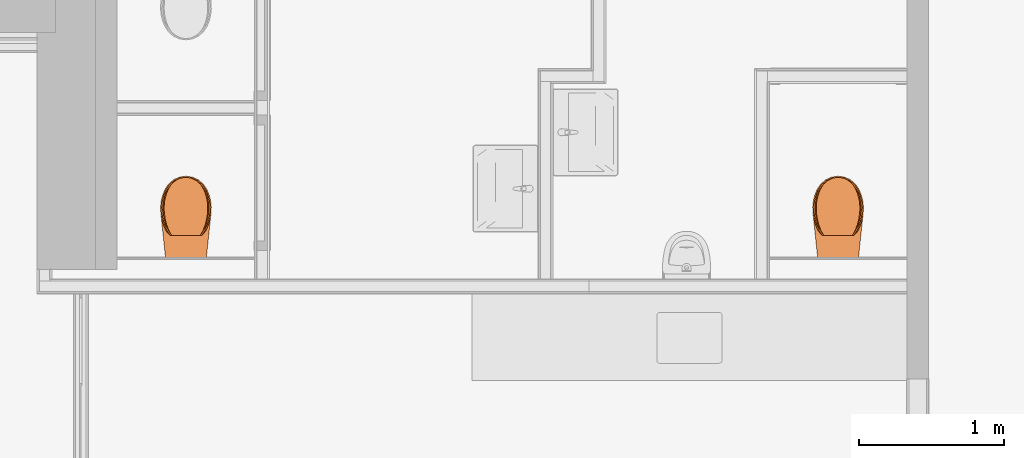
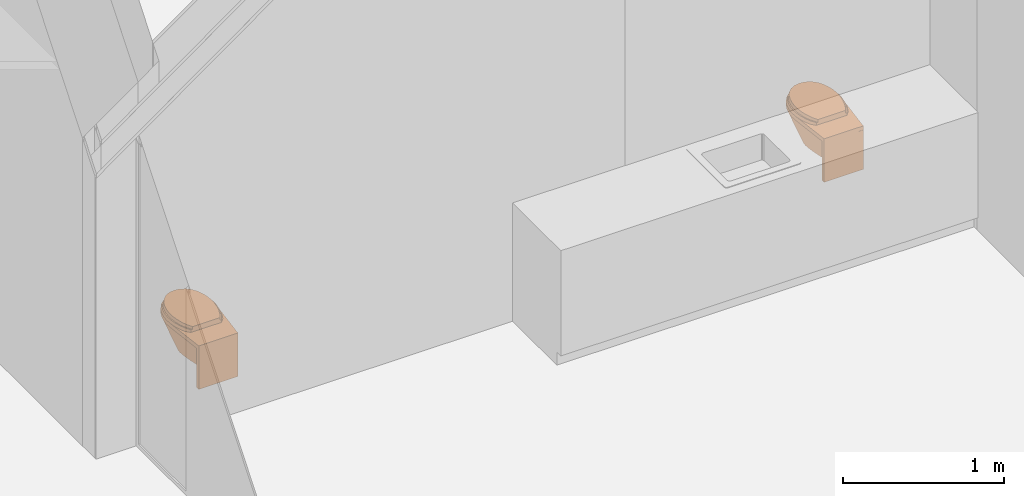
# One storey, part 128 of 135: 2 proxies.
"""IFC2X3 building model written with IfcOpenShell, lengths in millimetres."""

import ifcopenshell
import ifcopenshell.guid

model = None  # the IFC model being written
_history = None  # IfcOwnerHistory: only IFC2X3 demands one
_inside = {}  # id of a spatial element -> (the spatial element, [elements in it])
_under = {}  # id of a project, library or spatial element -> (it, [spatial elements below it])
_declared = {}  # id of a project -> (the project, [libraries it declares])
_typed = {}  # id of a type object -> (the type object, [elements of that type])
_made_of = {}  # id of a material, layer set ... -> (it, [elements and type objects made of it])


def new_model(schema):
    """Start an empty IFC model of exactly this schema.

    Asked for "IFC4X3", IfcOpenShell would pick the latest addendum, in which some entities
    have other attributes; the version numbers below select the first issue.
    IFC2X3 requires an IfcOwnerHistory on every rooted entity: one is made here for all.
    """
    global model, _history
    if schema == "IFC4X3":
        model = ifcopenshell.file(schema_version=(4, 3, 0, 0))
    else:
        model = ifcopenshell.file(schema=schema)
    _inside.clear()
    _under.clear()
    _declared.clear()
    _typed.clear()
    _made_of.clear()
    _history = None
    if model.schema == "IFC2X3":
        org = make("IfcOrganization", Name="unknown")
        user = make(
            "IfcPersonAndOrganization",
            ThePerson=make("IfcPerson", FamilyName="unknown"),
            TheOrganization=org,
        )
        app = make(
            "IfcApplication",
            ApplicationDeveloper=org,
            Version="unknown",
            ApplicationFullName="unknown",
            ApplicationIdentifier="unknown",
        )
        _history = make(
            "IfcOwnerHistory",
            OwningUser=user,
            OwningApplication=app,
            ChangeAction="ADDED",
            CreationDate=0,
        )
    return model


def make(cls, **values):
    """One entity of the class cls with the attributes given. An attribute that is None is left unset."""
    return model.create_entity(
        cls, **{name: value for name, value in values.items() if value is not None}
    )


def entity(cls, *values):
    """Any entity or typed value of the class cls, its attributes in the order of the schema. None: left unset."""
    e = model.create_entity(cls)
    for i, value in enumerate(values):
        if value is not None:
            e[i] = value
    return e


def rooted(cls, **values):
    """An entity with a GlobalId (a new one), such as an element, a storey or a relation."""
    return make(cls, GlobalId=ifcopenshell.guid.new(), OwnerHistory=_history, **values)


def si_unit(unit_type, name, prefix=None):
    """IfcSIUnit, for example si_unit("LENGTHUNIT", "METRE", prefix="MILLI")."""
    return make("IfcSIUnit", UnitType=unit_type, Prefix=prefix, Name=name)


def converted_unit(unit_type, name, factor, base, dimensions=None, offset=None):
    """IfcConversionBasedUnit, such as the inch: factor (a typed value) times the base unit."""
    return make(
        "IfcConversionBasedUnit"
        if offset is None
        else "IfcConversionBasedUnitWithOffset",
        ConversionOffset=offset,
        Dimensions=None
        if dimensions is None
        else entity("IfcDimensionalExponents", *dimensions),
        UnitType=unit_type,
        Name=name,
        ConversionFactor=make(
            "IfcMeasureWithUnit", ValueComponent=factor, UnitComponent=base
        ),
    )


def derived_unit(unit_type, elements):
    """IfcDerivedUnit: a product of units, each with its exponent."""
    return make(
        "IfcDerivedUnit",
        Elements=[
            make("IfcDerivedUnitElement", Unit=unit, Exponent=power)
            for unit, power in elements
        ],
        UnitType=unit_type,
    )


def money_unit(currency):
    """IfcMonetaryUnit."""
    return make("IfcMonetaryUnit", Currency=currency)


def assignment(units):
    """IfcUnitAssignment: the units of a project."""
    return None if units is None else make("IfcUnitAssignment", Units=units)


def point(xyz):
    """IfcCartesianPoint."""
    return None if xyz is None else make("IfcCartesianPoint", Coordinates=xyz)


def direction(xyz):
    """IfcDirection."""
    return None if xyz is None else make("IfcDirection", DirectionRatios=xyz)


def frame(location, z_axis=None, x_axis=None):
    """IfcAxis2Placement3D, a coordinate frame: its origin and axes. An axis left out is left unset."""
    return make(
        "IfcAxis2Placement3D",
        Location=point(location),
        Axis=direction(z_axis),
        RefDirection=direction(x_axis),
    )


def origin_with_axes():
    """The frame at (0, 0, 0) with the z axis (0, 0, 1) and the x axis (1, 0, 0) written out."""
    return frame((0.0, 0.0, 0.0), z_axis=(0.0, 0.0, 1.0), x_axis=(1.0, 0.0, 0.0))


def place(relative_to, where):
    """IfcLocalPlacement: puts the frame where relative to a parent placement (None: the world)."""
    return make(
        "IfcLocalPlacement", PlacementRelTo=relative_to, RelativePlacement=where
    )


def context(
    kind, dimensions, precision=None, world=None, true_north=None, identifier=None
):
    """IfcGeometricRepresentationContext, for example the 3D "Model" context."""
    return make(
        "IfcGeometricRepresentationContext",
        ContextIdentifier=identifier,
        ContextType=kind,
        CoordinateSpaceDimension=dimensions,
        Precision=precision,
        WorldCoordinateSystem=world,
        TrueNorth=true_north,
    )


def subcontext(parent, identifier, kind, view, scale=None):
    """IfcGeometricRepresentationSubContext, for example "Body" below "Model"."""
    return make(
        "IfcGeometricRepresentationSubContext",
        ContextIdentifier=identifier,
        ContextType=kind,
        ParentContext=parent,
        TargetScale=scale,
        TargetView=view,
    )


def project(units=None, contexts=None):
    """IfcProject with its units and contexts."""
    return rooted(
        "IfcProject",
        Name="project",
        RepresentationContexts=contexts,
        UnitsInContext=assignment(units),
    )


def spatial(cls, under=None, at=None, **own):
    """A site, building, storey or space (cls), placed at a placement, below another one or the project."""
    s = rooted(cls, ObjectPlacement=at, **own)
    if under is not None:
        _under.setdefault(under.id(), (under, []))[1].append(s)
    return s


def faces_of(points, faces, orient=None, outer=None):
    """IfcFace entities. A face is a list of loops; a loop is a list of indices into points, from 0.

    orient and outer hold one flag for each loop. By default every Orientation is true, the
    first loop of a face is its IfcFaceOuterBound and the others are IfcFaceBound.
    """
    made = []
    for i, loops in enumerate(faces):
        bounds = []
        for j, loop in enumerate(loops):
            is_outer = j == 0 if outer is None else outer[i][j]
            bounds.append(
                make(
                    "IfcFaceOuterBound" if is_outer else "IfcFaceBound",
                    Bound=make("IfcPolyLoop", Polygon=[points[k] for k in loop]),
                    Orientation=True if orient is None else orient[i][j],
                )
            )
        made.append(make("IfcFace", Bounds=bounds))
    return made


def open_shell(faces, orient=None, outer=None):
    """The faces of one IfcOpenShell. surface_model builds it on its shared points."""
    return ("IfcOpenShell", faces, orient, outer)


def faceted_brep(points, faces, orient=None, outer=None, voids=None):
    """IfcFacetedBrep: a solid bounded by flat faces; with voids (closed shells), ...WithVoids."""
    shared = [point(p) for p in points]
    hull = make("IfcClosedShell", CfsFaces=faces_of(shared, faces, orient, outer))
    if voids is None:
        return make("IfcFacetedBrep", Outer=hull)
    return make(
        "IfcFacetedBrepWithVoids",
        Outer=hull,
        Voids=[
            make(cls, CfsFaces=faces_of(shared, fs, o, b)) for cls, fs, o, b in voids
        ],
    )


def surface_model(cls, points, shells):
    """IfcFaceBasedSurfaceModel or IfcShellBasedSurfaceModel (cls): surfaces that need not close."""
    shared = [point(p) for p in points]
    made = [make(c, CfsFaces=faces_of(shared, fs, o, b)) for c, fs, o, b in shells]
    if cls == "IfcFaceBasedSurfaceModel":
        return make(cls, FbsmFaces=made)
    return make(cls, SbsmBoundary=made)


def shape(context_of_items, identifier, shape_type, items):
    """IfcShapeRepresentation: the items that make up one representation, for example the "Body"."""
    return make(
        "IfcShapeRepresentation",
        ContextOfItems=context_of_items,
        RepresentationIdentifier=identifier,
        RepresentationType=shape_type,
        Items=items,
    )


def source(mapping_origin, context_of_items, identifier, shape_type, items):
    """IfcRepresentationMap: a shape defined once, which mapped items show again and again."""
    return make(
        "IfcRepresentationMap",
        MappingOrigin=mapping_origin,
        MappedRepresentation=shape(context_of_items, identifier, shape_type, items),
    )


def transform(
    local_origin,
    x_axis=None,
    y_axis=None,
    z_axis=None,
    scale=None,
    scale2=None,
    scale3=None,
    uniform=True,
):
    """IfcCartesianTransformationOperator3D, or its non-uniform kind. x_axis, y_axis, z_axis: its Axis1, 2, 3."""
    if uniform:
        return make(
            "IfcCartesianTransformationOperator3D",
            Axis1=direction(x_axis),
            Axis2=direction(y_axis),
            LocalOrigin=point(local_origin),
            Scale=scale,
            Axis3=direction(z_axis),
        )
    return make(
        "IfcCartesianTransformationOperator3DnonUniform",
        Axis1=direction(x_axis),
        Axis2=direction(y_axis),
        LocalOrigin=point(local_origin),
        Scale=scale,
        Axis3=direction(z_axis),
        Scale2=scale2,
        Scale3=scale3,
    )


def mapped(mapping_source, mapping_target):
    """IfcMappedItem: shows the shape of a source again, moved by a transform."""
    return make(
        "IfcMappedItem", MappingSource=mapping_source, MappingTarget=mapping_target
    )


def made_of(thing, what):
    """Note that an element or type object is made of a material, layer set ...; save() writes the relation."""
    if what is not None:
        _made_of.setdefault(what.id(), (what, []))[1].append(thing)
    return thing


def type_object(cls, material=None, **own):
    """A type object (cls), such as IfcWallType, which elements share."""
    return made_of(rooted(cls, **own), material)


def type_shapes(of_type, sources):
    """Give a type object the sources (RepresentationMaps) that its elements show as mapped items."""
    of_type.RepresentationMaps = sources


def element(
    cls,
    number,
    at=None,
    inside=None,
    cuts=None,
    type_object=None,
    material=None,
    context=None,
    identifier="Body",
    shape_type=None,
    held_by="IfcProductDefinitionShape",
    body=None,
    shapes=None,
    **own,
):
    """One element of the class cls, such as IfcWall. Its Tag is "e" and its number.

    at: its placement. inside: the storey or other place that contains it. cuts: it is an
    opening in that element (IfcRelVoidsElement). A single representation is given by context,
    identifier, shape_type and body (its items); several are given by shapes. held_by: the class
    of the entity that holds the representations. save() writes the other relations.
    """
    e = rooted(cls, Tag="e%d" % number, ObjectPlacement=at, **own)
    if body is not None:
        shapes = [shape(context, identifier, shape_type, body)]
    if shapes is not None:
        e.Representation = make(held_by, Representations=shapes)
    if inside is not None:
        _inside.setdefault(inside.id(), (inside, []))[1].append(e)
    if cuts is not None:
        rooted(
            "IfcRelVoidsElement", RelatingBuildingElement=cuts, RelatedOpeningElement=e
        )
    if type_object is not None:
        _typed.setdefault(type_object.id(), (type_object, []))[1].append(e)
    return made_of(e, material)


def aggregate(whole, parts):
    """IfcRelAggregates: a whole, such as a stair, and the parts it consists of."""
    return rooted("IfcRelAggregates", RelatingObject=whole, RelatedObjects=parts)


def save(model, path):
    """Write the relations noted so far, then the file.

    IfcRelAggregates (storeys below a building ...), IfcRelContainedInSpatialStructure (elements
    in a storey), IfcRelDefinesByType, IfcRelAssociatesMaterial and IfcRelDeclares: one each for
    every whole, place, type object, material and project.
    """
    for whole, parts in _under.values():
        aggregate(whole, parts)
    for where, things in _inside.values():
        rooted(
            "IfcRelContainedInSpatialStructure",
            RelatedElements=things,
            RelatingStructure=where,
        )
    for kind, things in _typed.values():
        rooted("IfcRelDefinesByType", RelatedObjects=things, RelatingType=kind)
    for what, things in _made_of.values():
        rooted("IfcRelAssociatesMaterial", RelatedObjects=things, RelatingMaterial=what)
    for by, libraries in _declared.values():
        rooted("IfcRelDeclares", RelatingContext=by, RelatedDefinitions=libraries)
    model.write(path)


model = new_model("IFC2X3")

# Units and contexts
model_context = context("Model", 3, precision=0.01, world=origin_with_axes(), true_north=direction((0.0, 1.0)))
body_context = subcontext(model_context, "Body", "Model", "MODEL_VIEW")
ifc_project = project(units=[si_unit("LENGTHUNIT", "METRE", prefix="MILLI"), si_unit("AREAUNIT", "SQUARE_METRE"), si_unit("VOLUMEUNIT", "CUBIC_METRE"), converted_unit("PLANEANGLEUNIT", "DEGREE", entity("IfcPlaneAngleMeasure", 0.0174532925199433), si_unit("PLANEANGLEUNIT", "RADIAN"), dimensions=[0, 0, 0, 0, 0, 0, 0]), money_unit("EUR"), converted_unit("TIMEUNIT", "Year", entity("IfcTimeMeasure", 31557600.0), si_unit("TIMEUNIT", "SECOND"), dimensions=[0, 0, 1, 0, 0, 0, 0]), si_unit("MASSUNIT", "GRAM", prefix="KILO"), si_unit("THERMODYNAMICTEMPERATUREUNIT", "DEGREE_CELSIUS"), si_unit("LUMINOUSINTENSITYUNIT", "LUMEN"), si_unit("ENERGYUNIT", "JOULE", prefix="MEGA"), derived_unit("THERMALCONDUCTANCEUNIT", [(si_unit("POWERUNIT", "WATT"), 1), (si_unit("LENGTHUNIT", "METRE"), -1), (si_unit("THERMODYNAMICTEMPERATUREUNIT", "KELVIN"), -1)]), derived_unit("SPECIFICHEATCAPACITYUNIT", [(si_unit("ENERGYUNIT", "JOULE"), 1), (si_unit("MASSUNIT", "GRAM", prefix="KILO"), -1), (si_unit("THERMODYNAMICTEMPERATUREUNIT", "KELVIN"), -1)]), derived_unit("MASSDENSITYUNIT", [(si_unit("MASSUNIT", "GRAM", prefix="KILO"), 1), (si_unit("VOLUMEUNIT", "CUBIC_METRE"), -1)])], contexts=[model_context])

# Site, building, storey
site_placement = place(None, origin_with_axes())
site = spatial("IfcSite", under=ifc_project, at=site_placement, Name="Site", CompositionType="ELEMENT")
building_placement = place(site_placement, origin_with_axes())
building = spatial("IfcBuilding", under=site, at=building_placement, Name="Naam gebouw", CompositionType="ELEMENT")
storey_placement = place(building_placement, origin_with_axes())
storey = spatial("IfcBuildingStorey", under=building, at=storey_placement, Name="Begane grond N", CompositionType="ELEMENT", Elevation=0.0)

# Proxies
building_element_proxy_type = type_object("IfcBuildingElementProxyType", Name="Toilet 27", PredefinedType="NOTDEFINED")
shared_shape = source(origin_with_axes(), body_context, "Body", "SurfaceModel", [
    faceted_brep([(-141.0283315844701, -29.31865370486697, 69.99999999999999), (-141.0283315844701, 0.4949050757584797, 69.99999999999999), (141.0283315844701, 0.4949050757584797, 69.99999999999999), (141.0283315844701, -29.31865370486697, 69.99999999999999), (-141.0283315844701, -29.31865370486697, 370.0), (-141.0283315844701, 0.4949050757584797, 370.0), (141.0283315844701, 0.4949050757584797, 370.0), (141.0283315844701, -29.31865370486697, 370.0)], [[[0, 1, 2, 3]], [[0, 4, 5, 1]], [[1, 5, 6, 2]], [[2, 6, 7, 3]], [[3, 7, 4, 0]], [[7, 6, 5, 4]]]),
    faceted_brep([(0.0, -70.89167385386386, 370.0), (29.22322490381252, -74.34010881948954, 370.0), (48.96817068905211, -81.5929972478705, 370.0), (48.96817068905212, -29.31865370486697, 370.0), (-48.96817068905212, -29.31865370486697, 370.0), (-48.96817068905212, -81.5929972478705, 370.0), (-29.22322490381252, -74.34010881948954, 370.0), (0.0, -102.6888280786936, 120.0), (13.70129415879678, -104.9506834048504, 120.0), (48.96817068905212, -88.2509938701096, 324.1614695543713), (48.96817068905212, -91.42153264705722, 305.9289314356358), (48.96817068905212, -107.0876370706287, 223.4625696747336), (48.96817068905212, -115.6023982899, 192.7960154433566), (48.96817068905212, -121.830119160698, 170.4964192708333), (48.96817068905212, -132.9294031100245, 150.8349994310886), (48.96817068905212, -136.958898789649, 141.3134093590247), (48.96817068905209, -162.865413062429, 120.0), (48.96817068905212, -29.31865370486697, 120.0), (-48.96817068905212, -29.31865370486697, 120.0), (-48.96817068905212, -132.9294031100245, 150.8349994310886), (-48.96817068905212, -128.1614437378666, 166.4745945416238), (-48.96817068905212, -115.6023982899, 192.7960154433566), (-48.96817068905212, -98.32654517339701, 277.0091093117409), (-48.96817068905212, -91.42153264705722, 305.9289314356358), (-48.96817068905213, -162.8654130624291, 120.0), (-25.9903462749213, -111.5027098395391, 120.0), (-13.70129415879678, -104.9506834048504, 120.0), (25.9903462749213, -111.5027098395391, 120.0), (35.59888072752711, -121.6691333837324, 120.0), (41.53676110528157, -134.4015105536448, 120.0), (-35.59888072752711, -121.6691333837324, 120.0), (-41.53676110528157, -134.4015105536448, 120.0)], [[[0, 1, 2, 3, 4, 5, 6]], [[0, 7, 1]], [[1, 8, 9, 2]], [[9, 10, 11, 12, 13, 14, 15, 16, 17, 3, 2]], [[4, 3, 17, 18]], [[19, 20, 21, 22, 23, 5, 4, 18, 24]], [[23, 25, 6, 5]], [[6, 26, 0]], [[7, 0, 26]], [[8, 1, 7]], [[27, 10, 9, 8]], [[10, 27, 11]], [[28, 12, 11, 27]], [[12, 28, 13]], [[29, 14, 13, 28]], [[14, 29, 15]], [[16, 15, 29]], [[29, 28, 27, 8, 7, 26, 25, 30, 31, 24, 18, 17, 16]], [[19, 31, 20]], [[20, 31, 30, 21]], [[21, 30, 22]], [[22, 30, 25, 23]], [[24, 31, 19]], [[26, 6, 25]]]),
    surface_model("IfcShellBasedSurfaceModel", [(-17.69122070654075, -459.020482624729, 120.0), (-85.18209164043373, -535.3680377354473, 370.0), (-34.02798181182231, -451.6883347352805, 120.0), (-44.28681357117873, -553.722258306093, 370.0), (-119.554809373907, -506.3435444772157, 370.0), (-47.75865687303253, -440.0938417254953, 120.0), (-57.83238894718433, -425.1254476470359, 120.0), (-68.23029031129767, -399.4182096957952, 120.0), (-74.94382651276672, -372.4786779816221, 120.0), (-77.83882476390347, -344.845484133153, 120.0), (-76.85750262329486, -317.0761416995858, 120.0), (-70.97348723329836, -270.8651255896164, 120.0), (-63.11507520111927, -224.9582077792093, 120.0), (-53.29597761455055, -179.4418475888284, 120.0), (-41.53676110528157, -134.4015105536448, 120.0), (-35.59888072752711, -121.6691333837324, 120.0), (-25.9903462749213, -111.5027098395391, 120.0), (-13.70129415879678, -104.9506834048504, 120.0), (0.0, -102.6888280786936, 120.0), (13.70129415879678, -104.9506834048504, 120.0), (25.9903462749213, -111.5027098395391, 120.0), (35.59888072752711, -121.6691333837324, 120.0), (41.53676110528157, -134.4015105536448, 120.0), (53.29597761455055, -179.4418475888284, 120.0), (63.11507520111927, -224.9582077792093, 120.0), (70.97348723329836, -270.8651255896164, 120.0), (76.85750262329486, -317.0761416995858, 120.0), (77.83882476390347, -344.8464779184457, 120.0), (74.94382651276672, -372.4786779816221, 120.0), (68.23029031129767, -399.4182096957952, 120.0), (57.83238894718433, -425.1254476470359, 120.0), (47.75865687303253, -440.0938417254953, 120.0), (34.02798181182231, -451.6883347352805, 120.0), (17.69122070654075, -459.020482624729, 120.0), (0.0, -461.5278029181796, 120.0), (-144.7734172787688, -468.8718762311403, 370.0), (-160.3903462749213, -430.2603362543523, 370.0), (-170.4738719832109, -389.7973742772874, 370.0), (-174.8222455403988, -348.2949128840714, 370.0), (-173.3473242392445, -306.5847503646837, 370.0), (-164.8111927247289, -257.2969749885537, 370.0), (-149.8396642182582, -209.614162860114, 370.0), (-128.7050017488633, -164.3989196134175, 370.0), (-101.7881776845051, -122.4661491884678, 370.0), (-81.51241692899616, -100.8344247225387, 370.0), (-56.88632388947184, -84.50156343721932, 370.0), (-29.22322490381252, -74.34010881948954, 370.0), (0.0, -70.89167385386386, 370.0), (29.22322490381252, -74.34010881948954, 370.0), (56.88632388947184, -84.50156343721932, 370.0), (81.51241692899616, -100.8344247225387, 370.0), (101.7881776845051, -122.4661491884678, 370.0), (128.7050017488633, -164.3989196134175, 370.0), (149.8396642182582, -209.614162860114, 370.0), (164.8111927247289, -257.295981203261, 370.0), (173.3473242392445, -306.5847503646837, 370.0), (174.8222455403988, -348.2949128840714, 370.0), (170.4738719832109, -389.7973742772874, 370.0), (160.3893669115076, -430.2603362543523, 370.0), (144.7734172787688, -468.8718762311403, 370.0), (119.554809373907, -506.3435444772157, 370.0), (85.18209164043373, -535.3680377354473, 370.0), (44.28681357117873, -553.722258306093, 370.0), (0.0, -560.0, 370.0)], [open_shell([[[0, 1, 2]], [[0, 3, 1]], [[2, 1, 4]], [[0, 2, 5, 6, 7, 8, 9, 10, 11, 12, 13, 14, 15, 16, 17, 18, 19, 20, 21, 22, 23, 24, 25, 26, 27, 28, 29, 30, 31, 32, 33, 34]], [[34, 3, 0]], [[2, 4, 5]], [[5, 35, 6]], [[6, 36, 7]], [[7, 37, 8]], [[8, 38, 9]], [[9, 39, 10]], [[10, 40, 11]], [[11, 41, 12]], [[12, 42, 13]], [[13, 43, 14]], [[14, 44, 15]], [[15, 45, 16]], [[16, 46, 17]], [[17, 47, 18]], [[18, 48, 19]], [[19, 49, 20]], [[20, 50, 21]], [[21, 51, 22]], [[22, 52, 23]], [[23, 53, 24]], [[24, 54, 25]], [[25, 55, 26]], [[26, 56, 27]], [[27, 57, 28]], [[28, 58, 29]], [[29, 59, 30]], [[30, 60, 31]], [[31, 61, 32]], [[32, 62, 33]], [[33, 63, 34]], [[34, 63, 3]], [[5, 4, 35]], [[6, 35, 36]], [[7, 36, 37]], [[8, 37, 38]], [[9, 38, 39]], [[10, 39, 40]], [[11, 40, 41]], [[12, 41, 42]], [[13, 42, 43]], [[14, 43, 44]], [[15, 44, 45]], [[16, 45, 46]], [[17, 46, 47]], [[18, 47, 48]], [[19, 48, 49]], [[20, 49, 50]], [[21, 50, 51]], [[22, 51, 52]], [[23, 52, 53]], [[24, 53, 54]], [[25, 54, 55]], [[26, 55, 56]], [[27, 56, 57]], [[28, 57, 58]], [[29, 58, 59]], [[30, 59, 60]], [[31, 60, 61]], [[32, 61, 62]], [[33, 62, 63]]])]),
    faceted_brep([(173.3473242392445, -306.5847503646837, 370.0), (173.3473242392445, -306.5847503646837, 400.0), (174.8222455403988, -348.2949128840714, 400.0), (174.8222455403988, -348.2949128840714, 370.0), (140.9734872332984, 0.0, 370.0), (140.9734872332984, 0.0, 400.0), (-140.975445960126, 0.0, 400.0), (-173.3473242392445, -306.5847503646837, 400.0), (-174.8222455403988, -348.2949128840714, 400.0), (-170.4738719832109, -389.7973742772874, 400.0), (-160.3903462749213, -430.2603362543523, 400.0), (-144.7734172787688, -468.8718762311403, 400.0), (-119.554809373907, -506.3435444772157, 400.0), (-85.18209164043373, -535.3680377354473, 400.0), (-44.28681357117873, -553.722258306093, 400.0), (0.0, -560.0, 400.0), (44.28681357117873, -553.722258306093, 400.0), (85.18209164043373, -535.3680377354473, 400.0), (119.554809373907, -506.3435444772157, 400.0), (144.7734172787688, -468.8718762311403, 400.0), (160.3893669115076, -430.2603362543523, 400.0), (170.4738719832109, -389.7973742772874, 400.0), (-144.5021336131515, -309.7211367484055, 400.0), (-129.3885974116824, -258.2838037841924, 400.0), (-97.13522210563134, -215.7418429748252, 400.0), (-52.01301154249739, -187.731010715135, 400.0), (0.0, -177.9630950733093, 400.0), (52.01301154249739, -187.731010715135, 400.0), (97.13522210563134, -215.7418429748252, 400.0), (129.3885974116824, -258.2838037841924, 400.0), (144.5021336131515, -309.7211367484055, 400.0), (145.8291710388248, -347.2633637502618, 400.0), (141.914655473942, -384.6197529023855, 400.0), (132.838894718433, -421.0399963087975, 400.0), (118.7820916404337, -455.7936617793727, 400.0), (98.09206016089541, -486.5383973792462, 400.0), (69.89031129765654, -510.3524743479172, 400.0), (36.33634137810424, -525.411302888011, 400.0), (0.0, -530.5620920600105, 400.0), (-36.33634137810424, -525.411302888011, 400.0), (-69.89031129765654, -510.3524743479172, 400.0), (-98.09206016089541, -486.5383973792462, 400.0), (-118.7820916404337, -455.7936617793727, 400.0), (-132.838894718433, -421.0399963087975, 400.0), (-141.914655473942, -384.6197529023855, 400.0), (-145.8291710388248, -347.2633637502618, 400.0), (170.4738719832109, -389.7973742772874, 370.0), (160.3893669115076, -430.2603362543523, 370.0), (144.7734172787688, -468.8718762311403, 370.0), (119.554809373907, -506.3435444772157, 370.0), (85.18209164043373, -535.3680377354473, 370.0), (44.28681357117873, -553.722258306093, 370.0), (0.0, -560.0, 370.0), (-44.28681357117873, -553.722258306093, 370.0), (-85.18209164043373, -535.3680377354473, 370.0), (-119.554809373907, -506.3435444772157, 370.0), (-144.7734172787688, -468.8718762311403, 370.0), (-160.3903462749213, -430.2603362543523, 370.0), (-170.4738719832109, -389.7973742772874, 370.0), (-174.8222455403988, -348.2949128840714, 370.0), (-173.3473242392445, -306.5847503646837, 370.0), (-140.975445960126, 0.0, 370.0), (-144.5021336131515, -309.7211367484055, 370.0), (-145.8291710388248, -347.2633637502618, 370.0), (-141.914655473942, -384.6197529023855, 370.0), (-132.838894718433, -421.0399963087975, 370.0), (-118.7820916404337, -455.7936617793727, 370.0), (-98.09206016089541, -486.5383973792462, 370.0), (-69.89031129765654, -510.3524743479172, 370.0), (-36.33634137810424, -525.411302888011, 370.0), (0.0, -530.5620920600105, 370.0), (36.33634137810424, -525.411302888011, 370.0), (69.89031129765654, -510.3524743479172, 370.0), (98.09206016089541, -486.5383973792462, 370.0), (118.7820916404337, -455.7936617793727, 370.0), (132.838894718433, -421.0399963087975, 370.0), (141.914655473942, -384.6197529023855, 370.0), (145.8291710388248, -347.2633637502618, 370.0), (144.5021336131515, -309.7211367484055, 370.0), (129.3885974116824, -258.2838037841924, 370.0), (97.13522210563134, -215.7418429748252, 370.0), (52.01301154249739, -187.731010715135, 370.0), (0.0, -177.9630950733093, 370.0), (-52.01301154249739, -187.731010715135, 370.0), (-97.13522210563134, -215.7418429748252, 370.0), (-129.3885974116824, -258.2838037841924, 370.0)], [[[0, 1, 2, 3]], [[4, 5, 1, 0]], [[1, 5, 6, 7, 8, 9, 10, 11, 12, 13, 14, 15, 16, 17, 18, 19, 20, 21, 2], [22, 23, 24, 25, 26, 27, 28, 29, 30, 31, 32, 33, 34, 35, 36, 37, 38, 39, 40, 41, 42, 43, 44, 45]], [[3, 2, 21, 46]], [[0, 3, 46, 47, 48, 49, 50, 51, 52, 53, 54, 55, 56, 57, 58, 59, 60, 61, 4], [62, 63, 64, 65, 66, 67, 68, 69, 70, 71, 72, 73, 74, 75, 76, 77, 78, 79, 80, 81, 82, 83, 84, 85]], [[61, 6, 5, 4]], [[60, 7, 6, 61]], [[59, 8, 7, 60]], [[58, 9, 8, 59]], [[57, 10, 9, 58]], [[56, 11, 10, 57]], [[55, 12, 11, 56]], [[54, 13, 12, 55]], [[53, 14, 13, 54]], [[52, 15, 14, 53]], [[51, 16, 15, 52]], [[50, 17, 16, 51]], [[49, 18, 17, 50]], [[48, 19, 18, 49]], [[47, 20, 19, 48]], [[46, 21, 20, 47]], [[85, 23, 22, 62]], [[84, 24, 23, 85]], [[83, 25, 24, 84]], [[82, 26, 25, 83]], [[81, 27, 26, 82]], [[80, 28, 27, 81]], [[79, 29, 28, 80]], [[78, 30, 29, 79]], [[77, 31, 30, 78]], [[76, 32, 31, 77]], [[75, 33, 32, 76]], [[74, 34, 33, 75]], [[73, 35, 34, 74]], [[72, 36, 35, 73]], [[71, 37, 36, 72]], [[70, 38, 37, 71]], [[69, 39, 38, 70]], [[68, 40, 39, 69]], [[67, 41, 40, 68]], [[66, 42, 41, 67]], [[65, 43, 42, 66]], [[64, 44, 43, 65]], [[63, 45, 44, 64]], [[62, 22, 45, 63]]]),
    surface_model("IfcShellBasedSurfaceModel", [(-16.80665967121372, -465.7329258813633, 220.0), (-80.92298705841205, -525.2840188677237, 370.0), (-32.3265827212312, -460.0138505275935, 220.0), (-42.0724728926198, -539.6003109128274, 370.0), (-113.5770689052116, -502.644914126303, 370.0), (-45.3707240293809, -450.970145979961, 220.0), (-54.94076949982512, -439.2947985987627, 220.0), (-64.81877579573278, -419.2431529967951, 220.0), (-71.1966351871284, -398.23031825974, 220.0), (-73.9468835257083, -376.6764270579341, 220.0), (-73.01462749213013, -355.0163399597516, 220.0), (-67.42481287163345, -318.9717473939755, 220.0), (-59.95932144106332, -283.164351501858, 220.0), (-50.63117873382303, -247.6615905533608, 220.0), (-39.4599230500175, -212.5301276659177, 220.0), (-33.81893669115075, -202.598873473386, 220.0), (-24.69082896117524, -194.6690631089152, 220.0), (-13.01622945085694, -189.558482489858, 220.0), (0.0, -187.7942353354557, 220.0), (13.01622945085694, -189.558482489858, 220.0), (24.69082896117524, -194.6690631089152, 220.0), (33.81893669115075, -202.598873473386, 220.0), (39.4599230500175, -212.5301276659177, 220.0), (50.63117873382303, -247.6615905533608, 220.0), (59.95932144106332, -283.164351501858, 220.0), (67.42481287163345, -318.9717473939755, 220.0), (73.01462749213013, -355.0163399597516, 220.0), (73.9468835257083, -376.6772022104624, 220.0), (71.1966351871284, -398.23031825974, 220.0), (64.81877579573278, -419.2431529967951, 220.0), (54.94076949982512, -439.2947985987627, 220.0), (45.3707240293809, -450.970145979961, 220.0), (32.3265827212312, -460.0138505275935, 220.0), (16.80665967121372, -465.7329258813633, 220.0), (0.0, -467.6886357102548, 220.0), (-137.5347464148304, -473.4170128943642, 370.0), (-152.3708289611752, -443.3000117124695, 370.0), (-161.9501783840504, -411.7389013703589, 370.0), (-166.0811332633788, -379.3669814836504, 370.0), (-164.6799580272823, -346.833054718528, 370.0), (-156.5706330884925, -308.3885899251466, 370.0), (-142.3476810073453, -271.1959964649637, 370.0), (-122.2697516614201, -235.9281067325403, 370.0), (-96.69876880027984, -203.2205458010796, 370.0), (-77.43679608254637, -186.3478007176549, 370.0), (-54.04200769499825, -173.6081689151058, 370.0), (-27.7620636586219, -165.6822343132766, 370.0), (0.0, -162.9924550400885, 370.0), (27.7620636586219, -165.6822343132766, 370.0), (54.04200769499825, -173.6081689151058, 370.0), (77.43679608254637, -186.3478007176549, 370.0), (96.69876880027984, -203.2205458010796, 370.0), (122.2697516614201, -235.9281067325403, 370.0), (142.3476810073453, -271.1959964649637, 370.0), (156.5706330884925, -308.3878147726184, 370.0), (164.6799580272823, -346.833054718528, 370.0), (166.0811332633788, -379.3669814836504, 370.0), (161.9501783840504, -411.7389013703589, 370.0), (152.3698985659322, -443.3000117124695, 370.0), (137.5347464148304, -473.4170128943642, 370.0), (113.5770689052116, -502.644914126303, 370.0), (80.92298705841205, -525.2840188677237, 370.0), (42.0724728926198, -539.6003109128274, 370.0), (0.0, -544.4969494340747, 370.0)], [open_shell([[[0, 1, 2]], [[0, 3, 1]], [[2, 1, 4]], [[0, 2, 5, 6, 7, 8, 9, 10, 11, 12, 13, 14, 15, 16, 17, 18, 19, 20, 21, 22, 23, 24, 25, 26, 27, 28, 29, 30, 31, 32, 33, 34]], [[34, 3, 0]], [[2, 4, 5]], [[5, 35, 6]], [[6, 36, 7]], [[7, 37, 8]], [[8, 38, 9]], [[9, 39, 10]], [[10, 40, 11]], [[11, 41, 12]], [[12, 42, 13]], [[13, 43, 14]], [[14, 44, 15]], [[15, 45, 16]], [[16, 46, 17]], [[17, 47, 18]], [[18, 48, 19]], [[19, 49, 20]], [[20, 50, 21]], [[21, 51, 22]], [[22, 52, 23]], [[23, 53, 24]], [[24, 54, 25]], [[25, 55, 26]], [[26, 56, 27]], [[27, 57, 28]], [[28, 58, 29]], [[29, 59, 30]], [[30, 60, 31]], [[31, 61, 32]], [[32, 62, 33]], [[33, 63, 34]], [[34, 63, 3]], [[5, 4, 35]], [[6, 35, 36]], [[7, 36, 37]], [[8, 37, 38]], [[9, 38, 39]], [[10, 39, 40]], [[11, 40, 41]], [[12, 41, 42]], [[13, 42, 43]], [[14, 43, 44]], [[15, 44, 45]], [[16, 45, 46]], [[17, 46, 47]], [[18, 47, 48]], [[19, 48, 49]], [[20, 49, 50]], [[21, 50, 51]], [[22, 51, 52]], [[23, 52, 53]], [[24, 53, 54]], [[25, 54, 55]], [[26, 55, 56]], [[27, 56, 57]], [[28, 57, 58]], [[29, 58, 59]], [[30, 59, 60]], [[31, 60, 61]], [[32, 61, 62]], [[33, 62, 63]]])]),
    faceted_brep([(0.0, -560.0, 400.0), (-44.28681357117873, -553.722258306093, 400.0), (-85.18209164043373, -535.3680377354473, 400.0), (-119.554809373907, -506.3435444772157, 400.0), (-144.7734172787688, -468.8718762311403, 400.0), (-160.3903462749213, -430.2603362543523, 400.0), (-170.4738719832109, -389.7973742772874, 400.0), (-174.8222455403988, -348.2949128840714, 400.0), (-173.3473242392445, -306.5847503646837, 400.0), (-166.4663168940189, -264.4263906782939, 400.0), (-154.8716334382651, -223.3443004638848, 400.0), (-138.7150752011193, -183.8810864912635, 400.0), (-110.1926579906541, -151.3163525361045, 400.0), (110.1926579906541, -151.3163525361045, 400.0), (138.7150752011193, -183.8810864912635, 400.0), (154.8716334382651, -223.3443004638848, 400.0), (166.4663168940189, -264.4263906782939, 400.0), (173.3473242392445, -306.5847503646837, 400.0), (174.8222455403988, -348.2949128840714, 400.0), (170.4738719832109, -389.7973742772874, 400.0), (160.3893669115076, -430.2603362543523, 400.0), (144.7734172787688, -468.8718762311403, 400.0), (119.554809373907, -506.3435444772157, 400.0), (85.18209164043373, -535.3680377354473, 400.0), (44.28681357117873, -553.722258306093, 400.0), (-87.07689659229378, -411.9963613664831, 400.0), (-76.4888004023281, -438.0775703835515, 400.0), (-62.06856874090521, -459.4262123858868, 400.0), (-44.26109835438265, -474.4067566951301, 400.0), (-23.02579943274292, -483.9023013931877, 400.0), (0.0, -487.1544663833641, 400.0), (23.02579943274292, -483.9023013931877, 400.0), (44.26109835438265, -474.4067566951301, 400.0), (62.06856874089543, -459.4262123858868, 400.0), (76.4888004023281, -438.0775703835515, 400.0), (87.07689659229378, -411.9963613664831, 400.0), (94.51085540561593, -382.2763031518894, 400.0), (97.71606496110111, -351.7983255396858, 400.0), (96.61425296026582, -320.7429308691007, 400.0), (90.99294096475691, -286.7942733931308, 400.0), (81.3289539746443, -253.3384220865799, 400.0), (68.75412876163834, -223.4663237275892, 400.0), (-68.75448552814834, -223.4663237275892, 400.0), (-81.32886310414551, -253.3381075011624, 400.0), (-90.99294096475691, -286.7942733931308, 400.0), (-96.61425296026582, -320.7429308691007, 400.0), (-97.71606496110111, -351.7983255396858, 400.0), (-94.51085540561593, -382.2763031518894, 400.0), (-42.15180132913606, -546.1188070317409, 420.0000000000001), (-81.07562084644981, -528.649055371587, 420.0000000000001), (-113.7912556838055, -501.0248055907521, 420.0000000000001), (-137.7925148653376, -465.3598390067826, 420.0000000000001), (-152.9902763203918, -427.7848170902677, 420.0000000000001), (-162.8034977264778, -388.4070686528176, 420.0000000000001), (-167.0353270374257, -348.0176467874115, 420.0000000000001), (-165.6005596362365, -307.4274802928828, 420.0000000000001), (-158.5902763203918, -264.9332211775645, 420.0000000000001), (-146.6880727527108, -223.5758524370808, 420.0000000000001), (-130.06142007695, -183.9307757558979, 420.0000000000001), (-108.940468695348, -151.3163525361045, 420.0000000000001), (108.940468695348, -151.3163525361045, 420.0000000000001), (130.06142007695, -183.9317695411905, 420.0000000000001), (146.6880727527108, -223.5758524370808, 420.0000000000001), (158.5902763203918, -264.9332211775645, 420.0000000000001), (165.6005596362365, -307.4274802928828, 420.0000000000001), (167.0353270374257, -348.0176467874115, 420.0000000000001), (162.8034977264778, -388.4070686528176, 420.0000000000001), (152.9902763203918, -427.7848170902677, 420.0000000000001), (137.7925148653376, -465.3598390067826, 420.0000000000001), (113.7912556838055, -501.0248055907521, 420.0000000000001), (81.07562084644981, -528.649055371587, 420.0000000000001), (42.15180132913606, -546.1188070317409, 420.0000000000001), (0.0, -552.0944379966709, 420.0000000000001), (-76.4888004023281, -438.0775703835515, 420.0), (-87.07689659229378, -411.9963613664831, 420.0), (-62.06856874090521, -459.4262123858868, 420.0), (-44.26109835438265, -474.4067566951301, 420.0), (-23.02579943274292, -483.9023013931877, 420.0), (0.0, -487.1544663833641, 420.0), (23.02579943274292, -483.9023013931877, 420.0000000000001), (44.26109835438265, -474.4067566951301, 420.0000000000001), (62.06856874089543, -459.4262123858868, 420.0000000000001), (76.4888004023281, -438.0775703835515, 420.0000000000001), (87.07689659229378, -411.9963613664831, 420.0000000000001), (94.51085540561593, -382.2763031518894, 420.0000000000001), (97.71606496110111, -351.7983255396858, 420.0000000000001), (96.61425296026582, -320.7429308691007, 420.0000000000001), (90.99294096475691, -286.7942733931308, 420.0000000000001), (81.3289539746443, -253.3384220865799, 420.0000000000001), (68.75412876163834, -223.4663237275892, 420.0000000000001), (-68.75448552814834, -223.4663237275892, 420.0), (-81.32886310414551, -253.3381075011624, 420.0), (-90.99294096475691, -286.7942733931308, 420.0), (-96.61425296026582, -320.7429308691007, 420.0), (-97.71606496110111, -351.7983255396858, 420.0), (-94.51085540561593, -382.2763031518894, 420.0)], [[[0, 1, 2, 3, 4, 5, 6, 7, 8, 9, 10, 11, 12, 13, 14, 15, 16, 17, 18, 19, 20, 21, 22, 23, 24], [25, 26, 27, 28, 29, 30, 31, 32, 33, 34, 35, 36, 37, 38, 39, 40, 41, 42, 43, 44, 45, 46, 47]], [[0, 48, 1]], [[1, 49, 2]], [[2, 50, 3]], [[3, 51, 4]], [[5, 4, 51, 52]], [[5, 53, 6]], [[7, 6, 53, 54]], [[7, 55, 8]], [[8, 56, 9]], [[9, 57, 10]], [[10, 58, 11]], [[11, 59, 12]], [[13, 12, 59, 60]], [[13, 61, 14]], [[14, 62, 15]], [[15, 63, 16]], [[16, 64, 17]], [[17, 65, 18]], [[19, 18, 65, 66]], [[19, 67, 20]], [[20, 68, 21]], [[21, 69, 22]], [[22, 70, 23]], [[23, 71, 24]], [[24, 72, 0]], [[73, 26, 25, 74]], [[75, 27, 26, 73]], [[76, 28, 27, 75]], [[77, 29, 28, 76]], [[78, 30, 29, 77]], [[79, 31, 30, 78]], [[80, 32, 31, 79]], [[81, 33, 32, 80]], [[82, 34, 33, 81]], [[83, 35, 34, 82]], [[84, 36, 35, 83]], [[85, 37, 36, 84]], [[86, 38, 37, 85]], [[87, 39, 38, 86]], [[88, 40, 39, 87]], [[89, 41, 40, 88]], [[90, 42, 41, 89]], [[91, 43, 42, 90]], [[92, 44, 43, 91]], [[93, 45, 44, 92]], [[94, 46, 45, 93]], [[95, 47, 46, 94]], [[74, 25, 47, 95]], [[0, 72, 48]], [[1, 48, 49]], [[2, 49, 50]], [[3, 50, 51]], [[66, 65, 64, 63, 62, 61, 60, 59, 58, 57, 56, 55, 54, 53, 52, 51, 50, 49, 48, 72, 71, 70, 69, 68, 67], [92, 91, 90, 89, 88, 87, 86, 85, 84, 83, 82, 81, 80, 79, 78, 77, 76, 75, 73, 74, 95, 94, 93]], [[5, 52, 53]], [[7, 54, 55]], [[8, 55, 56]], [[9, 56, 57]], [[10, 57, 58]], [[11, 58, 59]], [[13, 60, 61]], [[14, 61, 62]], [[15, 62, 63]], [[16, 63, 64]], [[17, 64, 65]], [[19, 66, 67]], [[20, 67, 68]], [[21, 68, 69]], [[22, 69, 70]], [[23, 70, 71]], [[24, 71, 72]]]),
    faceted_brep([(107.5993284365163, -494.4181209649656, 420.0000000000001), (72.96805876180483, -528.649055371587, 440.0000000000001), (76.66388247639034, -519.4674730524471, 420.0000000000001), (102.412130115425, -501.0248055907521, 440.0000000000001), (37.93662119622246, -546.1188070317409, 440.0000000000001), (39.85813221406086, -538.8154789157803, 420.0000000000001), (0.0, -545.0932206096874, 420.0000000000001), (-39.85813221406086, -538.8154789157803, 420.0000000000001), (-76.66388247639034, -519.4674730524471, 420.0000000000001), (-107.5993284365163, -494.4181209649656, 420.0000000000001), (-130.2960755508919, -463.9029497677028, 420.0000000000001), (-144.3513116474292, -430.2603362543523, 420.0000000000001), (-153.4264847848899, -389.7973742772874, 420.0000000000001), (-157.3400209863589, -348.2949128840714, 420.0000000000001), (-156.01259181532, -306.5847503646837, 420.0000000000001), (-149.819685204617, -264.4263906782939, 420.0000000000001), (-139.3844700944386, -223.3443004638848, 420.0000000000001), (-119.5550052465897, -183.8810864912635, 420.0000000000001), (-99.17339219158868, -151.3163525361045, 420.0000000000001), (99.17339219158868, -151.3163525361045, 420.0000000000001), (119.5550052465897, -183.8810864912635, 420.0000000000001), (139.3844700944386, -223.3443004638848, 420.0000000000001), (149.819685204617, -264.4263906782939, 420.0000000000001), (156.01259181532, -306.5847503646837, 420.0000000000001), (157.3400209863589, -348.2949128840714, 420.0000000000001), (153.4264847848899, -389.7973742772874, 420.0000000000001), (144.3504302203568, -430.2603362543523, 420.0000000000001), (130.2960755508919, -463.9029497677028, 420.0000000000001), (124.0132633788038, -465.3598390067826, 440.0000000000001), (137.6912486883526, -427.7848170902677, 440.0000000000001), (146.52314795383, -388.4070686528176, 440.0000000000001), (150.3317943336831, -348.0176467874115, 440.0000000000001), (149.0405036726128, -307.4274802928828, 440.0000000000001), (142.7312486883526, -264.9332211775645, 440.0000000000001), (132.0192654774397, -223.5758524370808, 440.0000000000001), (117.055278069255, -183.9317695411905, 440.0000000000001), (98.04642182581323, -151.3163525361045, 440.0000000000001), (-98.04642182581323, -151.3163525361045, 440.0000000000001), (-117.055278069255, -183.9307757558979, 440.0000000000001), (-132.0192654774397, -223.5758524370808, 440.0000000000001), (-142.7312486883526, -264.9332211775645, 440.0000000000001), (-149.0405036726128, -307.4274802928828, 440.0000000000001), (-150.3317943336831, -348.0176467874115, 440.0000000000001), (-146.52314795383, -388.4070686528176, 440.0000000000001), (-137.6912486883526, -427.7848170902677, 440.0000000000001), (-124.0132633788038, -465.3598390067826, 440.0000000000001), (-102.412130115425, -501.0248055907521, 440.0000000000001), (-72.96805876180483, -528.649055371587, 440.0000000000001), (-37.93662119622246, -546.1188070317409, 440.0000000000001), (0.0, -552.0944379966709, 440.0000000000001)], [[[0, 1, 2]], [[0, 3, 1]], [[2, 1, 4]], [[0, 2, 5, 6, 7, 8, 9, 10, 11, 12, 13, 14, 15, 16, 17, 18, 19, 20, 21, 22, 23, 24, 25, 26, 27]], [[27, 3, 0]], [[3, 28, 29, 30, 31, 32, 33, 34, 35, 36, 37, 38, 39, 40, 41, 42, 43, 44, 45, 46, 47, 48, 49, 4, 1]], [[2, 4, 5]], [[5, 49, 6]], [[6, 48, 7]], [[7, 47, 8]], [[8, 46, 9]], [[9, 45, 10]], [[10, 44, 11]], [[11, 43, 12]], [[12, 43, 42, 13]], [[13, 41, 14]], [[14, 40, 15]], [[15, 39, 16]], [[16, 38, 17]], [[17, 37, 18]], [[18, 37, 36, 19]], [[19, 35, 20]], [[20, 34, 21]], [[21, 33, 22]], [[22, 32, 23]], [[23, 31, 24]], [[24, 31, 30, 25]], [[25, 29, 26]], [[26, 28, 27]], [[27, 28, 3]], [[26, 29, 28]], [[25, 30, 29]], [[23, 32, 31]], [[22, 33, 32]], [[21, 34, 33]], [[20, 35, 34]], [[19, 36, 35]], [[17, 38, 37]], [[16, 39, 38]], [[15, 40, 39]], [[14, 41, 40]], [[13, 42, 41]], [[11, 44, 43]], [[10, 45, 44]], [[9, 46, 45]], [[8, 47, 46]], [[7, 48, 47]], [[6, 49, 48]], [[5, 4, 49]]]),
])
type_shapes(building_element_proxy_type, [shared_shape])
for number, where, z_axis, x_axis, name in (
    (1, (35450.00000000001, 15690.91242510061, 0.0), (0.0, 0.0, 1.0), (-1.0, 0.0, 0.0), "_Sanitair-x"),
    (2, (30954.1870993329, 15690.91242510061, 0.0), (0.0, 0.0, 1.0), (-1.0, 0.0, 0.0), "_Sanitair-x"),
):
    element("IfcBuildingElementProxy", number, at=place(storey_placement, frame(where, z_axis=z_axis, x_axis=x_axis)), inside=storey, type_object=building_element_proxy_type, Name=name, context=body_context, shape_type="MappedRepresentation", body=[
        mapped(shared_shape, transform((0.0, 0.0, 0.0))),
    ])

save(model, "model.ifc")
